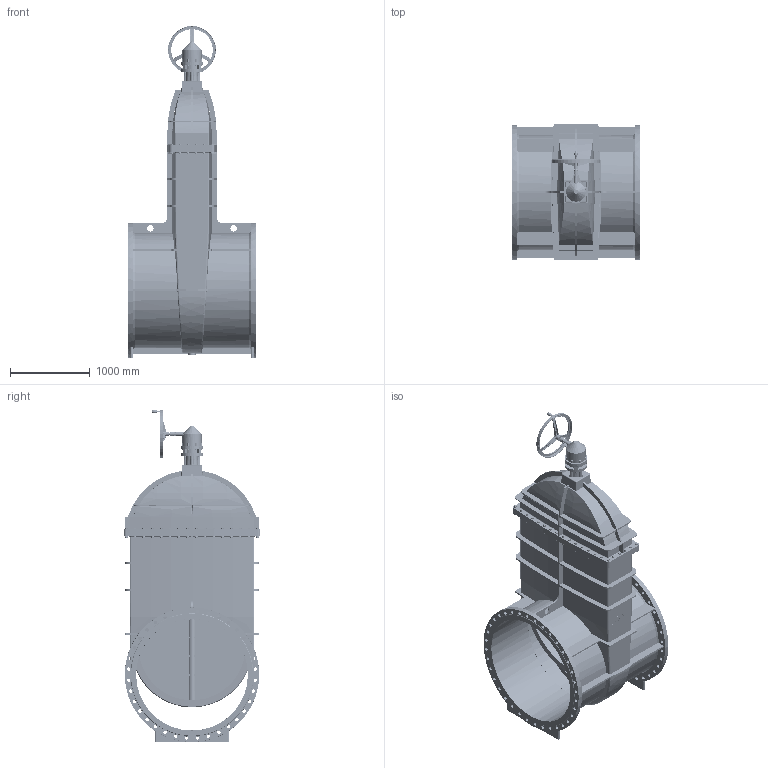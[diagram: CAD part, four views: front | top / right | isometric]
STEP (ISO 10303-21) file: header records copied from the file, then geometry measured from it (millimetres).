
FILE_DESCRIPTION(('STEP AP242'), '1');
FILE_NAME('青溻桄赅', '', ('UNSPECIFIED'), ('UNSPECIFIED'), 'C3D Converter', 'C3D Toolkit', '');
FILE_SCHEMA(('AP242_MANAGED_MODEL_BASED_3D_ENGINEERING_MIM_LF { 1 0 10303 442 1 1 4 }'));
Length unit declared in the file: millimetre
Assembly tree (267 placements, depth 2):
  (unnamed)
    (unnamed)
    (unnamed)
    (unnamed)
    (unnamed)  x2
    (unnamed)
    (unnamed)
    (unnamed)
    (unnamed)
    (unnamed)
    (unnamed)  x40
    (unnamed)  x80
    (unnamed)  x80
    (unnamed)  x40
    (unnamed)  x4
    (unnamed)  x8
    (unnamed)  x4
    (unnamed)
Bounding box: 1600 x 1706 x 4156.5 mm (x, y, z)
Volume: 292802778.3 mm3; surface area: 50066161.6 mm2
Topology: 272 solids, 273 shells, 4160 faces, 10271 edges, 6757 vertices
Faces by surface type: plane 2352, cylinder 959, cone 540, extrusion 127, torus 103, bspline 79
Full cylindrical faces by diameter (mm): 4.917 x1, 5 x4, 6 x23, 8 x24, 10 x4, 12 x8, 13 x8, 14 x4, 16 x12, 17.294 x40, 18 x4, 20 x45, 22 x200, 24 x4, 30 x40, 34 x80, 40 x1, 44 x72, 56 x9, 60 x3, 80 x2, 92 x1, 96 x5, 101.617 x1, 205.111 x2, 245.384 x1, 285.657 x3, 520 x1, 530 x1, 590 x1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
Entity records: 88834 total; most frequent: CARTESIAN_POINT 34745, DIRECTION 9557, ORIENTED_EDGE 8555, EDGE_CURVE 4718, AXIS2_PLACEMENT_3D 3757, VERTEX_POINT 3651, EDGE_LOOP 2478, CIRCLE 2115
